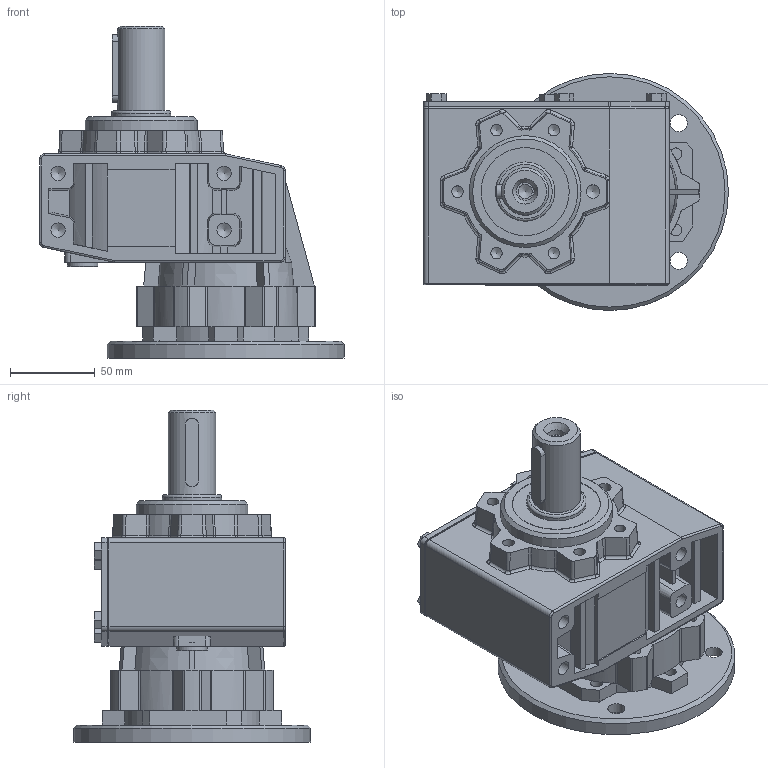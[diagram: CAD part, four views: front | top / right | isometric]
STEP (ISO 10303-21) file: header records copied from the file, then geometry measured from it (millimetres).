
FILE_DESCRIPTION( ( 'Unknown' ), '1' );
FILE_NAME( 'E:/services/configuratordownloads/customers/HYDROMEC/MONOSTADIO/download/4A157FF12293EC82746FBBF55ABED6B4/STEP/4A157FF12293EC82746FBBF55ABED6B4.3d.stp', 'Unknown', ( 'Unknown' ), ( 'Unknown' ), 'PSStep 10.1', 'Unknown', ' ' );
FILE_SCHEMA( ( 'AUTOMOTIVE_DESIGN { 1 0 10303 214 1 1 1 1 }' ) );
Length unit declared in the file: millimetre
Products named in the file (2): 5118800
Bounding box: 180 x 140 x 196 mm (x, y, z)
Volume: 1423751.5 mm3; surface area: 153687.6 mm2
Topology: 2 solids, 5 shells, 584 faces, 1515 edges, 979 vertices
Faces by surface type: plane 306, cylinder 172, cone 44, bspline 38, torus 24
Full cylindrical faces by diameter (mm): 5 x6, 6.8 x5, 7 x6, 8 x1, 8.376 x1, 8.5 x4, 10 x10, 10.5 x1, 11.999 x6, 18 x1, 19 x1, 20 x1, 28 x1, 35 x1, 45 x2, 52 x1, 62 x1, 66 x1, 75 x1, 140 x1
Entity records: 23893 total; most frequent: CARTESIAN_POINT 5714, ORIENTED_EDGE 2732, DIRECTION 2702, EDGE_CURVE 1366, AXIS2_PLACEMENT_3D 955, VERTEX_POINT 932, LINE 792, VECTOR 792
